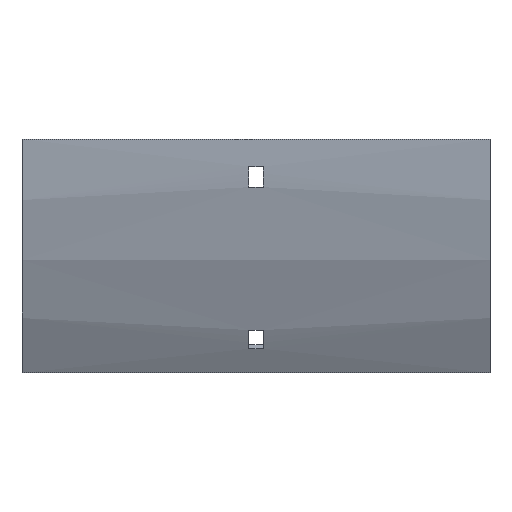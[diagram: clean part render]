
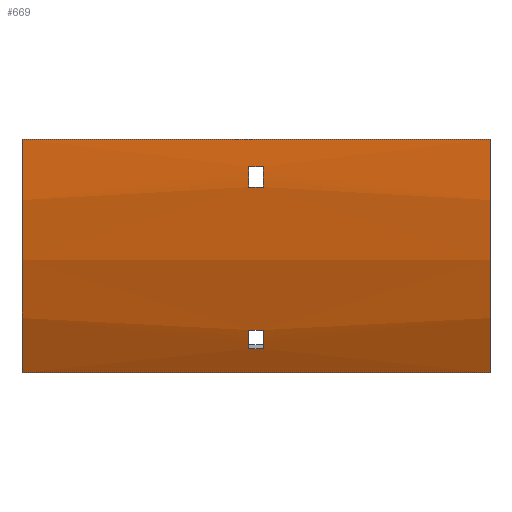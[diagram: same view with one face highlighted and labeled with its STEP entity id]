
A CAD part, front view. The second image highlights one B-rep face of the part: STEP entity #669.
In plain terms, the highlighted cylindrical face has radius 204 mm (diameter 408 mm), a partial arc.
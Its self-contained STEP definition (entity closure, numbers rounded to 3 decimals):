
#17 = ORIENTED_EDGE ( 'NONE', *, *, #1045, .F. ) ;
#33 = DIRECTION ( 'NONE',  ( 1., 0., 0. ) ) ;
#35 = ORIENTED_EDGE ( 'NONE', *, *, #551, .F. ) ;
#51 = CARTESIAN_POINT ( 'NONE',  ( -3.25, -102.916, -21. ) ) ;
#65 = LINE ( 'NONE', #971, #101 ) ;
#69 = VERTEX_POINT ( 'NONE', #687 ) ;
#80 = DIRECTION ( 'NONE',  ( 1., 0., 0. ) ) ;
#81 = AXIS2_PLACEMENT_3D ( 'NONE', #535, #1429, #1686 ) ;
#86 = CARTESIAN_POINT ( 'NONE',  ( 102., -82.363, -91.431 ) ) ;
#101 = VECTOR ( 'NONE', #345, 1000. ) ;
#146 = EDGE_LOOP ( 'NONE', ( #1536, #548, #419, #585 ) ) ;
#147 = DIRECTION ( 'NONE',  ( 0., 0., 1. ) ) ;
#153 = VERTEX_POINT ( 'NONE', #870 ) ;
#163 = DIRECTION ( 'NONE',  ( -1., 0., 0. ) ) ;
#165 = VERTEX_POINT ( 'NONE', #786 ) ;
#174 = CARTESIAN_POINT ( 'NONE',  ( 102., -103.647, -12. ) ) ;
#235 = EDGE_CURVE ( 'NONE', #153, #1178, #1012, .T. ) ;
#249 = CARTESIAN_POINT ( 'NONE',  ( -3.25, -103.647, -12. ) ) ;
#257 = DIRECTION ( 'NONE',  ( 1., 0., 0. ) ) ;
#261 = VERTEX_POINT ( 'NONE', #1238 ) ;
#296 = DIRECTION ( 'NONE',  ( -1., 0., 0. ) ) ;
#297 = VECTOR ( 'NONE', #80, 1000. ) ;
#319 = DIRECTION ( 'NONE',  ( 0., 0., -1. ) ) ;
#345 = DIRECTION ( 'NONE',  ( -1., 0., 0. ) ) ;
#380 = VERTEX_POINT ( 'NONE', #569 ) ;
#404 = CARTESIAN_POINT ( 'NONE',  ( -3.25, -86.231, -83.272 ) ) ;
#414 = LINE ( 'NONE', #174, #961 ) ;
#419 = ORIENTED_EDGE ( 'NONE', *, *, #812, .T. ) ;
#426 = LINE ( 'NONE', #1229, #1307 ) ;
#435 = DIRECTION ( 'NONE',  ( 1., 0., 0. ) ) ;
#450 = AXIS2_PLACEMENT_3D ( 'NONE', #656, #1052, #147 ) ;
#464 = VERTEX_POINT ( 'NONE', #784 ) ;
#469 = CARTESIAN_POINT ( 'NONE',  ( 102., -86.231, -83.272 ) ) ;
#504 = VERTEX_POINT ( 'NONE', #51 ) ;
#526 = LINE ( 'NONE', #924, #1410 ) ;
#535 = CARTESIAN_POINT ( 'NONE',  ( -3.25, 100., 0. ) ) ;
#548 = ORIENTED_EDGE ( 'NONE', *, *, #1489, .T. ) ;
#549 = DIRECTION ( 'NONE',  ( 0., 0., -1. ) ) ;
#551 = EDGE_CURVE ( 'NONE', #261, #1498, #989, .T. ) ;
#552 = EDGE_LOOP ( 'NONE', ( #939, #909, #1136, #966 ) ) ;
#569 = CARTESIAN_POINT ( 'NONE',  ( 3.25, -86.231, -83.272 ) ) ;
#585 = ORIENTED_EDGE ( 'NONE', *, *, #1116, .T. ) ;
#614 = CARTESIAN_POINT ( 'NONE',  ( 102., 100., 0. ) ) ;
#616 = ORIENTED_EDGE ( 'NONE', *, *, #826, .T. ) ;
#641 = EDGE_CURVE ( 'NONE', #380, #1315, #1639, .T. ) ;
#643 = CIRCLE ( 'NONE', #1614, 204. ) ;
#656 = CARTESIAN_POINT ( 'NONE',  ( 3.25, 100., 0. ) ) ;
#669 = ADVANCED_FACE ( 'NONE', ( #869, #986, #1399 ), #1374, .T. ) ;
#683 = CARTESIAN_POINT ( 'NONE',  ( 102., 100., 0. ) ) ;
#687 = CARTESIAN_POINT ( 'NONE',  ( -3.25, -82.363, -91.431 ) ) ;
#694 = VERTEX_POINT ( 'NONE', #1250 ) ;
#710 = EDGE_LOOP ( 'NONE', ( #1185, #17, #35, #616 ) ) ;
#717 = VECTOR ( 'NONE', #876, 1000. ) ;
#780 = DIRECTION ( 'NONE',  ( 0., 0., -1. ) ) ;
#784 = CARTESIAN_POINT ( 'NONE',  ( 3.25, -103.647, -12. ) ) ;
#786 = CARTESIAN_POINT ( 'NONE',  ( 3.25, -102.916, -21. ) ) ;
#812 = EDGE_CURVE ( 'NONE', #1552, #464, #414, .T. ) ;
#826 = EDGE_CURVE ( 'NONE', #261, #153, #526, .T. ) ;
#869 = FACE_OUTER_BOUND ( 'NONE', #710, .T. ) ;
#870 = CARTESIAN_POINT ( 'NONE',  ( -102., -104., 0. ) ) ;
#876 = DIRECTION ( 'NONE',  ( -1., 0., 0. ) ) ;
#909 = ORIENTED_EDGE ( 'NONE', *, *, #641, .F. ) ;
#924 = CARTESIAN_POINT ( 'NONE',  ( 102., -104., 0. ) ) ;
#939 = ORIENTED_EDGE ( 'NONE', *, *, #1543, .F. ) ;
#949 = DIRECTION ( 'NONE',  ( 1., 0., 0. ) ) ;
#961 = VECTOR ( 'NONE', #1180, 1000. ) ;
#966 = ORIENTED_EDGE ( 'NONE', *, *, #1444, .F. ) ;
#971 = CARTESIAN_POINT ( 'NONE',  ( 102., -102.916, -21. ) ) ;
#986 = FACE_BOUND ( 'NONE', #146, .T. ) ;
#989 = CIRCLE ( 'NONE', #1206, 204. ) ;
#1012 = CIRCLE ( 'NONE', #1542, 204. ) ;
#1016 = EDGE_CURVE ( 'NONE', #694, #380, #1586, .T. ) ;
#1025 = CIRCLE ( 'NONE', #1224, 204. ) ;
#1045 = EDGE_CURVE ( 'NONE', #1498, #1178, #426, .T. ) ;
#1052 = DIRECTION ( 'NONE',  ( -1., 0., 0. ) ) ;
#1084 = DIRECTION ( 'NONE',  ( 0., 0., -1. ) ) ;
#1116 = EDGE_CURVE ( 'NONE', #464, #165, #1025, .T. ) ;
#1126 = EDGE_CURVE ( 'NONE', #165, #504, #65, .T. ) ;
#1136 = ORIENTED_EDGE ( 'NONE', *, *, #1016, .F. ) ;
#1159 = CARTESIAN_POINT ( 'NONE',  ( 102., -76.669, -102. ) ) ;
#1178 = VERTEX_POINT ( 'NONE', #1387 ) ;
#1180 = DIRECTION ( 'NONE',  ( 1., 0., 0. ) ) ;
#1185 = ORIENTED_EDGE ( 'NONE', *, *, #235, .T. ) ;
#1206 = AXIS2_PLACEMENT_3D ( 'NONE', #683, #33, #549 ) ;
#1224 = AXIS2_PLACEMENT_3D ( 'NONE', #1624, #435, #319 ) ;
#1229 = CARTESIAN_POINT ( 'NONE',  ( 102., -76.669, -102. ) ) ;
#1238 = CARTESIAN_POINT ( 'NONE',  ( 102., -104., 0. ) ) ;
#1250 = CARTESIAN_POINT ( 'NONE',  ( 3.25, -82.363, -91.431 ) ) ;
#1268 = DIRECTION ( 'NONE',  ( 0., 0., 1. ) ) ;
#1274 = LINE ( 'NONE', #86, #297 ) ;
#1307 = VECTOR ( 'NONE', #296, 1000. ) ;
#1309 = CIRCLE ( 'NONE', #81, 204. ) ;
#1315 = VERTEX_POINT ( 'NONE', #404 ) ;
#1338 = CARTESIAN_POINT ( 'NONE',  ( -102., 100., 0. ) ) ;
#1374 = CYLINDRICAL_SURFACE ( 'NONE', #1631, 204. ) ;
#1387 = CARTESIAN_POINT ( 'NONE',  ( -102., -76.669, -102. ) ) ;
#1399 = FACE_BOUND ( 'NONE', #552, .T. ) ;
#1410 = VECTOR ( 'NONE', #163, 1000. ) ;
#1429 = DIRECTION ( 'NONE',  ( -1., 0., 0. ) ) ;
#1444 = EDGE_CURVE ( 'NONE', #69, #694, #1274, .T. ) ;
#1489 = EDGE_CURVE ( 'NONE', #504, #1552, #1309, .T. ) ;
#1498 = VERTEX_POINT ( 'NONE', #1159 ) ;
#1536 = ORIENTED_EDGE ( 'NONE', *, *, #1126, .T. ) ;
#1542 = AXIS2_PLACEMENT_3D ( 'NONE', #1338, #949, #1084 ) ;
#1543 = EDGE_CURVE ( 'NONE', #1315, #69, #643, .T. ) ;
#1552 = VERTEX_POINT ( 'NONE', #249 ) ;
#1586 = CIRCLE ( 'NONE', #450, 204. ) ;
#1590 = CARTESIAN_POINT ( 'NONE',  ( -3.25, 100., 0. ) ) ;
#1614 = AXIS2_PLACEMENT_3D ( 'NONE', #1590, #257, #780 ) ;
#1624 = CARTESIAN_POINT ( 'NONE',  ( 3.25, 100., 0. ) ) ;
#1631 = AXIS2_PLACEMENT_3D ( 'NONE', #614, #1634, #1268 ) ;
#1634 = DIRECTION ( 'NONE',  ( -1., 0., 0. ) ) ;
#1639 = LINE ( 'NONE', #469, #717 ) ;
#1686 = DIRECTION ( 'NONE',  ( 0., 0., 1. ) ) ;
